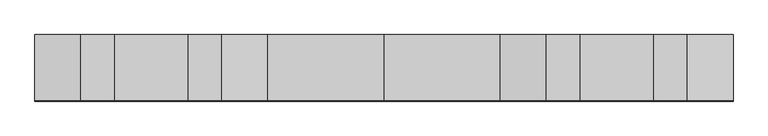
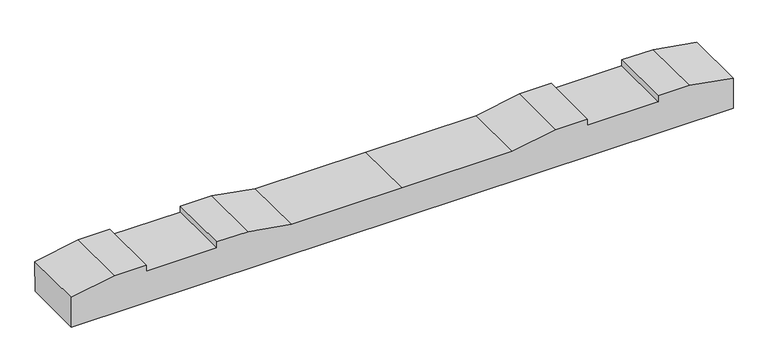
"""IFC4 building model written with IfcOpenShell, lengths in millimetres: proxy geometry, 轨枕-立面角度 : 轨枕-立面角度."""

from ifc_helpers import new_model, si_unit, frame, origin, place, context, project, spatial, polyline, outline, extrude, source, transform, mapped, element, save


def generic_models_0d819f28(model_context):
    return source(origin(), model_context, "Body", "SweptSolid", [
        extrude(outline(polyline([(0.0, 0.0), (0.0, -100.020689), (-137.8834664, -124.5), (-237.8834664, -124.5), (-237.8834664, -104.5), (-461.8834664, -104.5), (-461.8834664, -124.5), (-561.8834664, -124.5), (-699.8834664, -100.0000001), (-1049.8834664, -100.0000001), (-1399.8834664, -100.0000001), (-1537.8834664, -124.5), (-1637.8834664, -124.5), (-1637.8834664, -104.5), (-1861.8834664, -104.5), (-1861.8834664, -124.5), (-1961.8834664, -124.5), (-2099.7669328, -100.020689), (-2099.7669328, 0.0), (0.0, 0.0)])), frame((-1049.8834664, 99.5778146, -104.9023777), z_axis=(0.0, -0.9999918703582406, 0.004032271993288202), x_axis=(-1.0, 0.0, 0.0)), (0.0, 0.0, 1.0), 200.0),
    ])


if __name__ == "__main__":
    model = new_model("IFC4")
    model_context = context("Model", 3, world=origin())
    ifc_project = project(units=[si_unit("LENGTHUNIT", "METRE", prefix="MILLI")], contexts=[model_context])
    site = spatial("IfcSite", under=ifc_project)
    building = spatial("IfcBuilding", under=site)
    placement = place(None, origin())
    generic_models_shape = generic_models_0d819f28(model_context)
    element("IfcBuildingElementProxy", 1, Name="轨枕-立面角度 : 轨枕-立面角度", ObjectType="轨枕-立面角度 : 轨枕-立面角度", at=placement, inside=building, context=model_context, shape_type="MappedRepresentation", body=[
        mapped(generic_models_shape, transform((0.0, 0.0, 0.0), x_axis=(1.0, 0.0, 0.0), y_axis=(0.0, 1.0, 0.0), z_axis=(0.0, 0.0, 1.0))),
    ])
    save(model, "model.ifc")
